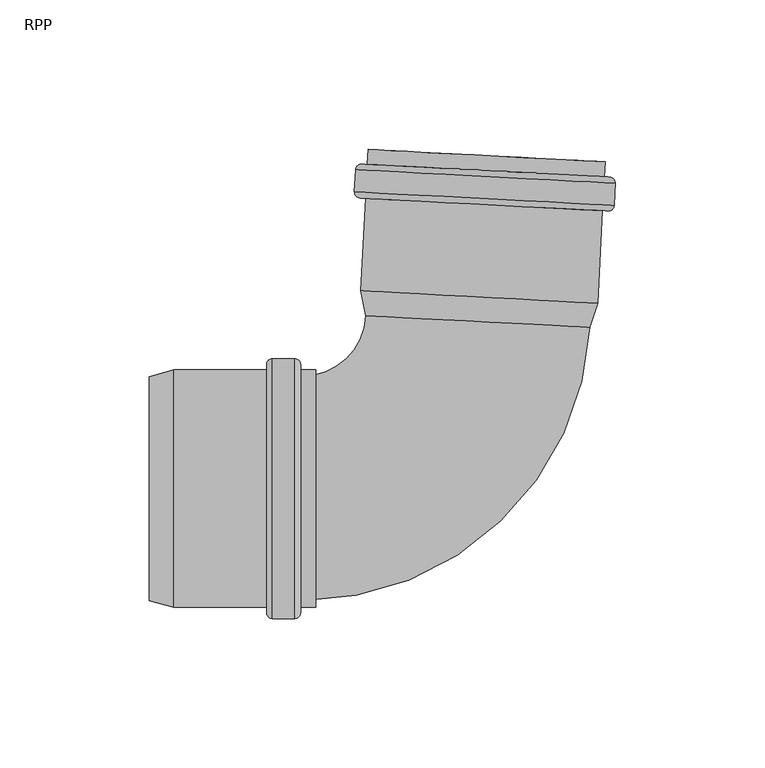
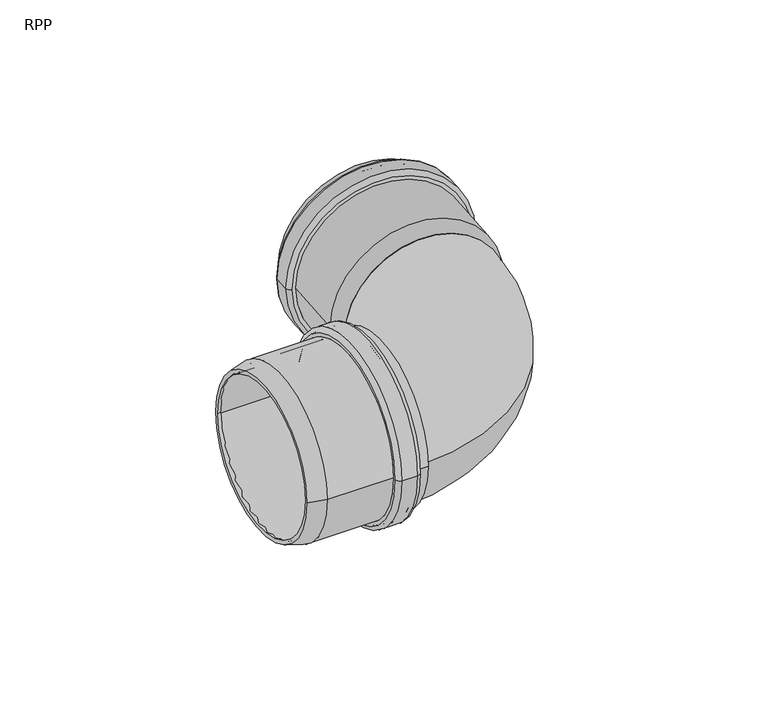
"""IFC4 building model written with IfcOpenShell, lengths in millimetres: pipe fitting geometry, RAUPIANO PLUS Bend : RPP."""

from ifc_helpers import new_model, si_unit, point, frame, origin, place, context, project, spatial, polyline, circle_curve, ellipse_curve, trimmed, source, transform, mapped, element, save
from ifc_brep_helpers import plane_surface, cylinder_surface, revolved_surface, advanced_brep


def rpp_dd01ceee(model_context):
    return source(origin(), model_context, "Body", "AdvancedBrep", [
        advanced_brep(
        [(-65.9, -37.8, 0.0), (-65.9, 37.8, 0.0), (-98.5393485, 37.8, 0.0), (-98.5393485, -37.8, 0.0), (-65.4, -41.6, 0.0), (-65.4, 41.6, 0.0), (-65.9, 41.1, 0.0), (-65.9, -41.1, 0.0), (-58.8, -41.6, 0.0), (-58.8, 41.6, 0.0), (-58.3, -41.1, 0.0), (-58.3, 41.1, 0.0), (-51.4, -37.8, 0.0), (-51.4, 37.8, 0.0), (-58.3, 37.8, 0.0), (-58.3, -37.8, 0.0), (-56.4, -39.7, 0.0), (-56.4, 39.7, 0.0), (-51.4, 39.7, 0.0), (-51.4, -39.7, 0.0), (-58.4, -43.5, 0.0), (-58.4, 43.5, 0.0), (-56.4, 41.5, 0.0), (-56.4, -41.5, 0.0), (-65.8, -43.5, 0.0), (-65.8, 43.5, 0.0), (-67.8, -41.5, 0.0), (-67.8, 41.5, 0.0), (-98.7894882, -39.7, 0.0), (-98.7894882, 39.7, 0.0), (-67.8, 39.7, 0.0), (-67.8, -39.7, 0.0), (-107.0, -37.5, 0.0), (-107.0, 37.5, 0.0), (-107.0, 35.5329753, 0.0), (-107.0, -35.5329753, 0.0)],
        [
            (0, 1, circle_curve(frame((-65.9, 0.0, 0.0), z_axis=(1.0, 0.0, 0.0), x_axis=(0.0, 1.0, 0.0)), 37.8)),
            (1, 2),
            (2, 3, circle_curve(frame((-98.5393485, 0.0, 0.0), z_axis=(-1.0, 0.0, 0.0), x_axis=(0.0, 1.0, 0.0)), 37.8)),
            (3, 0),
            (4, 5, circle_curve(frame((-65.4, 0.0, 0.0), z_axis=(1.0, 0.0, 0.0), x_axis=(0.0, 1.0, 0.0)), 41.6)),
            (5, 6, circle_curve(frame((-65.4, 41.1, 0.0), z_axis=(0.0, 0.0, 1.0), x_axis=(0.0, -1.0, 0.0)), 0.5)),
            (6, 7, circle_curve(frame((-65.9, 0.0, 0.0), z_axis=(-1.0, 0.0, 0.0), x_axis=(0.0, 1.0, 0.0)), 41.1)),
            (7, 4, circle_curve(frame((-65.4, -41.1, 0.0), z_axis=(0.0, 0.0, 1.0), x_axis=(0.0, 1.0, 0.0)), 0.5)),
            (8, 9, circle_curve(frame((-58.8, 0.0, 0.0), z_axis=(1.0, 0.0, 0.0), x_axis=(0.0, 1.0, 0.0)), 41.6)),
            (9, 5),
            (4, 8),
            (10, 11, circle_curve(frame((-58.3, 0.0, 0.0), z_axis=(1.0, 0.0, 0.0), x_axis=(0.0, 1.0, 0.0)), 41.1)),
            (11, 9, circle_curve(frame((-58.8, 41.1, 0.0), z_axis=(0.0, 0.0, 1.0), x_axis=(0.0, -1.0, 0.0)), 0.5)),
            (8, 10, circle_curve(frame((-58.8, -41.1, 0.0), z_axis=(0.0, 0.0, 1.0), x_axis=(0.0, 1.0, 0.0)), 0.5)),
            (12, 13, circle_curve(frame((-51.4, 0.0, 0.0), z_axis=(1.0, 0.0, 0.0), x_axis=(0.0, 1.0, 0.0)), 37.8)),
            (13, 14),
            (14, 15, circle_curve(frame((-58.3, 0.0, 0.0), z_axis=(-1.0, 0.0, 0.0), x_axis=(0.0, 1.0, 0.0)), 37.8)),
            (15, 12),
            (16, 17, circle_curve(frame((-56.4, 0.0, 0.0), z_axis=(1.0, 0.0, 0.0), x_axis=(0.0, 1.0, 0.0)), 39.7)),
            (17, 18),
            (18, 19, circle_curve(frame((-51.4, 0.0, 0.0), z_axis=(-1.0, 0.0, 0.0), x_axis=(0.0, 1.0, 0.0)), 39.7)),
            (19, 16),
            (20, 21, circle_curve(frame((-58.4, 0.0, 0.0), z_axis=(1.0, 0.0, 0.0), x_axis=(0.0, 1.0, 0.0)), 43.5)),
            (21, 22, circle_curve(frame((-58.4, 41.5, 0.0), z_axis=(0.0, 0.0, -1.0), x_axis=(0.0, -1.0, 0.0)), 2.0)),
            (22, 23, circle_curve(frame((-56.4, 0.0, 0.0), z_axis=(-1.0, 0.0, 0.0), x_axis=(0.0, 1.0, 0.0)), 41.5)),
            (23, 20, circle_curve(frame((-58.4, -41.5, 0.0), z_axis=(0.0, 0.0, -1.0), x_axis=(0.0, 1.0, 0.0)), 2.0)),
            (24, 25, circle_curve(frame((-65.8, 0.0, 0.0), z_axis=(1.0, 0.0, 0.0), x_axis=(0.0, 1.0, 0.0)), 43.5)),
            (25, 21),
            (20, 24),
            (26, 27, circle_curve(frame((-67.8, 0.0, 0.0), z_axis=(1.0, 0.0, 0.0), x_axis=(0.0, 1.0, 0.0)), 41.5)),
            (27, 25, circle_curve(frame((-65.8, 41.5, 0.0), z_axis=(0.0, 0.0, -1.0), x_axis=(0.0, -1.0, 0.0)), 2.0)),
            (24, 26, circle_curve(frame((-65.8, -41.5, 0.0), z_axis=(0.0, 0.0, -1.0), x_axis=(0.0, 1.0, 0.0)), 2.0)),
            (28, 29, circle_curve(frame((-98.7894882, 0.0, 0.0), z_axis=(1.0, 0.0, 0.0), x_axis=(0.0, 1.0, 0.0)), 39.7)),
            (29, 30),
            (30, 31, circle_curve(frame((-67.8, 0.0, 0.0), z_axis=(-1.0, 0.0, 0.0), x_axis=(0.0, 1.0, 0.0)), 39.7)),
            (31, 28),
            (32, 33, circle_curve(frame((-107.0, 0.0, 0.0), z_axis=(1.0, 0.0, 0.0), x_axis=(0.0, 1.0, 0.0)), 37.5)),
            (33, 29),
            (28, 32),
            (2, 34),
            (34, 35, circle_curve(frame((-107.0, 0.0, 0.0), z_axis=(-1.0, 0.0, 0.0), x_axis=(0.0, 1.0, 0.0)), 35.5329753)),
            (35, 3),
            (1, 0, circle_curve(frame((-65.9, 0.0, 0.0), z_axis=(1.0, 0.0, 0.0), x_axis=(0.0, -1.0, 0.0)), 37.8)),
            (3, 2, circle_curve(frame((-98.5393485, 0.0, 0.0), z_axis=(-1.0, 0.0, 0.0), x_axis=(0.0, -1.0, 0.0)), 37.8)),
            (6, 7, circle_curve(frame((-65.9, 0.0, 0.0), z_axis=(1.0, 0.0, 0.0), x_axis=(0.0, -1.0, 0.0)), 41.1)),
            (5, 4, circle_curve(frame((-65.4, 0.0, 0.0), z_axis=(1.0, 0.0, 0.0), x_axis=(0.0, -1.0, 0.0)), 41.6)),
            (9, 8, circle_curve(frame((-58.8, 0.0, 0.0), z_axis=(1.0, 0.0, 0.0), x_axis=(0.0, -1.0, 0.0)), 41.6)),
            (11, 10, circle_curve(frame((-58.3, 0.0, 0.0), z_axis=(1.0, 0.0, 0.0), x_axis=(0.0, -1.0, 0.0)), 41.1)),
            (14, 15, circle_curve(frame((-58.3, 0.0, 0.0), z_axis=(1.0, 0.0, 0.0), x_axis=(0.0, -1.0, 0.0)), 37.8)),
            (13, 12, circle_curve(frame((-51.4, 0.0, 0.0), z_axis=(1.0, 0.0, 0.0), x_axis=(0.0, -1.0, 0.0)), 37.8)),
            (18, 19, circle_curve(frame((-51.4, 0.0, 0.0), z_axis=(1.0, 0.0, 0.0), x_axis=(0.0, -1.0, 0.0)), 39.7)),
            (17, 16, circle_curve(frame((-56.4, 0.0, 0.0), z_axis=(1.0, 0.0, 0.0), x_axis=(0.0, -1.0, 0.0)), 39.7)),
            (22, 23, circle_curve(frame((-56.4, 0.0, 0.0), z_axis=(1.0, 0.0, 0.0), x_axis=(0.0, -1.0, 0.0)), 41.5)),
            (21, 20, circle_curve(frame((-58.4, 0.0, 0.0), z_axis=(1.0, 0.0, 0.0), x_axis=(0.0, -1.0, 0.0)), 43.5)),
            (25, 24, circle_curve(frame((-65.8, 0.0, 0.0), z_axis=(1.0, 0.0, 0.0), x_axis=(0.0, -1.0, 0.0)), 43.5)),
            (27, 26, circle_curve(frame((-67.8, 0.0, 0.0), z_axis=(1.0, 0.0, 0.0), x_axis=(0.0, -1.0, 0.0)), 41.5)),
            (30, 31, circle_curve(frame((-67.8, 0.0, 0.0), z_axis=(1.0, 0.0, 0.0), x_axis=(0.0, -1.0, 0.0)), 39.7)),
            (29, 28, circle_curve(frame((-98.7894882, 0.0, 0.0), z_axis=(1.0, 0.0, 0.0), x_axis=(0.0, -1.0, 0.0)), 39.7)),
            (33, 32, circle_curve(frame((-107.0, 0.0, 0.0), z_axis=(1.0, 0.0, 0.0), x_axis=(0.0, -1.0, 0.0)), 37.5)),
            (34, 35, circle_curve(frame((-107.0, 0.0, 0.0), z_axis=(1.0, 0.0, 0.0), x_axis=(0.0, -1.0, 0.0)), 35.5329753)),
        ],
        [
            revolved_surface(polyline([(-98.5393485, 37.8, 0.0), (-65.9, 37.8, 0.0)]), (-107.0, 0.0, 0.0), (-1.0, 0.0, 0.0)),
            revolved_surface(trimmed(ellipse_curve(frame((-65.4, 41.1, 0.0), z_axis=(0.0, 0.0, -1.0), x_axis=(0.0, -1.0, 0.0)), 0.5, 0.5), [point((-65.9, 41.1, 0.0))], [point((-65.4, 41.6, 0.0))], True, "CARTESIAN"), (-107.0, 0.0, 0.0), (-1.0, 0.0, 0.0)),
            revolved_surface(polyline([(-65.4, 41.6, 0.0), (-58.8, 41.6, 0.0)]), (-107.0, 0.0, 0.0), (-1.0, 0.0, 0.0)),
            revolved_surface(trimmed(ellipse_curve(frame((-58.8, 41.1, 0.0), z_axis=(0.0, 0.0, -1.0), x_axis=(0.0, -1.0, 0.0)), 0.5, 0.5), [point((-58.8, 41.6, 0.0))], [point((-58.3, 41.1, 0.0))], True, "CARTESIAN"), (-107.0, 0.0, 0.0), (-1.0, 0.0, 0.0)),
            revolved_surface(polyline([(-58.3, 37.8, 0.0), (-51.4, 37.8, 0.0)]), (-107.0, 0.0, 0.0), (-1.0, 0.0, 0.0)),
            cylinder_surface(frame((-107.0, 0.0, 0.0), z_axis=(-1.0, 0.0, 0.0), x_axis=(0.0, 1.0, 0.0)), 39.7),
            revolved_surface(trimmed(ellipse_curve(frame((-58.4, 41.5, 0.0), z_axis=(0.0, 0.0, 1.0), x_axis=(0.0, -1.0, 0.0)), 2.0, 2.0), [point((-56.4, 41.5, 0.0))], [point((-58.4, 43.5, 0.0))], True, "CARTESIAN"), (-107.0, 0.0, 0.0), (-1.0, 0.0, 0.0)),
            cylinder_surface(frame((-107.0, 0.0, 0.0), z_axis=(-1.0, 0.0, 0.0), x_axis=(0.0, 1.0, 0.0)), 43.5),
            revolved_surface(trimmed(ellipse_curve(frame((-65.8, 41.5, 0.0), z_axis=(0.0, 0.0, 1.0), x_axis=(0.0, -1.0, 0.0)), 2.0, 2.0), [point((-65.8, 43.5, 0.0))], [point((-67.8, 41.5, 0.0))], True, "CARTESIAN"), (-107.0, 0.0, 0.0), (-1.0, 0.0, 0.0)),
            revolved_surface(polyline([(-98.7894882, 39.7, 0.0), (-107.0, 37.5, 0.0)]), (-107.0, 0.0, 0.0), (-1.0, 0.0, 0.0)),
            revolved_surface(polyline([(-107.0, 35.5329753, 0.0), (-98.5393485, 37.8, 0.0)]), (-107.0, 0.0, 0.0), (-1.0, 0.0, 0.0)),
            revolved_surface(polyline([(-98.5393485, -37.8, 0.0), (-65.9, -37.8, 0.0)]), (-107.0, 0.0, 0.0), (-1.0, 0.0, 0.0)),
            plane_surface(frame((-65.9, 0.0, 0.0), z_axis=(1.0, 0.0, 0.0), x_axis=(0.0, -1.0, 0.0))),
            revolved_surface(trimmed(ellipse_curve(frame((-65.4, -41.1, 0.0), z_axis=(0.0, 0.0, 1.0), x_axis=(0.0, 1.0, 0.0)), 0.5, 0.5), [point((-65.9, -41.1, 0.0))], [point((-65.4, -41.6, 0.0))], True, "CARTESIAN"), (-107.0, 0.0, 0.0), (-1.0, 0.0, 0.0)),
            revolved_surface(polyline([(-65.4, -41.6, 0.0), (-58.8, -41.6, 0.0)]), (-107.0, 0.0, 0.0), (-1.0, 0.0, 0.0)),
            revolved_surface(trimmed(ellipse_curve(frame((-58.8, -41.1, 0.0), z_axis=(0.0, 0.0, 1.0), x_axis=(0.0, 1.0, 0.0)), 0.5, 0.5), [point((-58.8, -41.6, 0.0))], [point((-58.3, -41.1, 0.0))], True, "CARTESIAN"), (-107.0, 0.0, 0.0), (-1.0, 0.0, 0.0)),
            plane_surface(frame((-58.3, 0.0, 0.0), z_axis=(-1.0, 0.0, 0.0), x_axis=(0.0, -1.0, 0.0))),
            revolved_surface(polyline([(-58.3, -37.8, 0.0), (-51.4, -37.8, 0.0)]), (-107.0, 0.0, 0.0), (-1.0, 0.0, 0.0)),
            plane_surface(frame((-51.4, 0.0, 0.0), z_axis=(1.0, 0.0, 0.0), x_axis=(0.0, -1.0, 0.0))),
            cylinder_surface(frame((-107.0, 0.0, 0.0), z_axis=(-1.0, 0.0, 0.0), x_axis=(0.0, -1.0, 0.0)), 39.7),
            plane_surface(frame((-56.4, 0.0, 0.0), z_axis=(1.0, 0.0, 0.0), x_axis=(0.0, -1.0, 0.0))),
            revolved_surface(trimmed(ellipse_curve(frame((-58.4, -41.5, 0.0), z_axis=(0.0, 0.0, -1.0), x_axis=(0.0, 1.0, 0.0)), 2.0, 2.0), [point((-56.4, -41.5, 0.0))], [point((-58.4, -43.5, 0.0))], True, "CARTESIAN"), (-107.0, 0.0, 0.0), (-1.0, 0.0, 0.0)),
            cylinder_surface(frame((-107.0, 0.0, 0.0), z_axis=(-1.0, 0.0, 0.0), x_axis=(0.0, -1.0, 0.0)), 43.5),
            revolved_surface(trimmed(ellipse_curve(frame((-65.8, -41.5, 0.0), z_axis=(0.0, 0.0, -1.0), x_axis=(0.0, 1.0, 0.0)), 2.0, 2.0), [point((-65.8, -43.5, 0.0))], [point((-67.8, -41.5, 0.0))], True, "CARTESIAN"), (-107.0, 0.0, 0.0), (-1.0, 0.0, 0.0)),
            plane_surface(frame((-67.8, 0.0, 0.0), z_axis=(-1.0, 0.0, 0.0), x_axis=(0.0, -1.0, 0.0))),
            revolved_surface(polyline([(-98.7894882, -39.7, 0.0), (-107.0, -37.5, 0.0)]), (-107.0, 0.0, 0.0), (-1.0, 0.0, 0.0)),
            plane_surface(frame((-107.0, 0.0, 0.0), z_axis=(-1.0, 0.0, 0.0), x_axis=(0.0, -1.0, 0.0))),
            revolved_surface(polyline([(-107.0, -35.5329753, 0.0), (-98.5393485, -37.8, 0.0)]), (-107.0, 0.0, 0.0), (-1.0, 0.0, 0.0)),
        ],
        [
            (0, [[1, 2, 3, 4]]),
            (1, [[5, 6, 7, 8]]),
            (2, [[9, 10, -5, 11]]),
            (3, [[12, 13, -9, 14]]),
            (4, [[15, 16, 17, 18]]),
            (5, [[19, 20, 21, 22]]),
            (6, [[23, 24, 25, 26]]),
            (7, [[27, 28, -23, 29]]),
            (8, [[30, 31, -27, 32]]),
            (5, [[33, 34, 35, 36]]),
            (9, [[37, 38, -33, 39]]),
            (10, [[-3, 40, 41, 42]]),
            (11, [[43, -4, 44, -2]]),
            (12, [[45, -7], [-43, -1]]),
            (13, [[46, -8, -45, -6]]),
            (14, [[47, -11, -46, -10]]),
            (15, [[48, -14, -47, -13]]),
            (16, [[-48, -12], [49, -17]]),
            (17, [[50, -18, -49, -16]]),
            (18, [[51, -21], [-50, -15]]),
            (19, [[52, -22, -51, -20]]),
            (20, [[53, -25], [-52, -19]]),
            (21, [[54, -26, -53, -24]]),
            (22, [[55, -29, -54, -28]]),
            (23, [[56, -32, -55, -31]]),
            (24, [[-56, -30], [57, -35]]),
            (19, [[58, -36, -57, -34]]),
            (25, [[59, -39, -58, -38]]),
            (26, [[-59, -37], [60, -41]]),
            (27, [[-44, -42, -60, -40]]),
        ],
    ),
        advanced_brep(
        [(38.4150921, 54.0636017, 0.0), (-32.553465, 57.7829062, 0.0), (-34.3745866, 66.3506096, 0.0), (41.1218063, 62.3940113, 0.0), (43.0061111, 62.044776, 0.0), (-36.285074, 66.200251, 0.0), (-34.517794, 57.8858523, 0.0), (40.3794211, 53.9606556, 0.0), (44.6279756, 92.9917942, 0.0), (-34.6632095, 97.1472692, 0.0), (48.9147258, 102.1800352, 0.0), (-37.9660437, 106.7332634, 0.0), (-38.3533298, 99.3434049, 0.0), (48.5274397, 94.7901767, 0.0), (45.4862852, 109.3693186, 0.0), (-33.8048998, 113.5247935, 0.0), (-34.0665796, 108.5316459, 0.0), (45.2246055, 104.3761709, 0.0), (43.227771, 102.5782131, 0.0), (-32.2686218, 106.5348114, 0.0), (-31.9075037, 113.4253552, 0.0), (43.5888891, 109.4687569, 0.0), (46.650978, 95.2890668, 0.0), (-36.4349993, 99.6434184, 0.0), (-36.089582, 106.2343733, 0.0), (46.9963953, 101.8800217, 0.0), (-32.6663751, 98.945227, 0.0), (42.8300178, 94.9886287, 0.0), (-36.4607427, 97.2414739, 0.0), (46.4255087, 92.8975895, 0.0), (47.0221386, 104.2819662, 0.0), (-35.8641128, 108.6258506, 0.0), (-35.5640993, 106.7075201, 0.0), (46.5232485, 102.4055045, 0.0), (46.1254952, 94.81592, 0.0), (-35.9618525, 99.1179356, 0.0)],
        [
            (0, 1, circle_curve(frame((2.9308135, 55.9232539, 0.0), z_axis=(-0.05233595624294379, -0.9986295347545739, 0.0), x_axis=(-0.9986295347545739, 0.05233595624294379, 0.0)), 35.5329753)),
            (1, 2),
            (2, 3, circle_curve(frame((3.3736098, 64.3723104, 0.0), z_axis=(0.05233595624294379, 0.9986295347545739, 0.0), x_axis=(-0.9986295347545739, 0.05233595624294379, 0.0)), 37.8)),
            (3, 0),
            (4, 5, circle_curve(frame((3.3605185, 64.1225135, 0.0), z_axis=(-0.05233595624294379, -0.9986295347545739, 0.0), x_axis=(-0.9986295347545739, 0.05233595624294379, 0.0)), 39.7)),
            (5, 6),
            (6, 7, circle_curve(frame((2.9308135, 55.9232539, 0.0), z_axis=(0.05233595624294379, 0.9986295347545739, 0.0), x_axis=(-0.9986295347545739, 0.05233595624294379, 0.0)), 37.5)),
            (7, 4),
            (8, 9, circle_curve(frame((4.982383, 95.0695317, 0.0), z_axis=(-0.05233595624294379, -0.9986295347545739, 0.0), x_axis=(-0.9986295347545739, 0.05233595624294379, 0.0)), 39.7)),
            (9, 5),
            (4, 8),
            (10, 11, circle_curve(frame((5.474341, 104.4566493, 0.0), z_axis=(-0.05233595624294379, -0.9986295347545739, 0.0), x_axis=(-0.9986295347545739, 0.05233595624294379, 0.0)), 43.5)),
            (11, 12),
            (12, 13, circle_curve(frame((5.0870549, 97.0667908, 0.0), z_axis=(0.05233595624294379, 0.9986295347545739, 0.0), x_axis=(-0.9986295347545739, 0.05233595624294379, 0.0)), 43.5)),
            (13, 10),
            (14, 15, circle_curve(frame((5.8406927, 111.4470561, 0.0), z_axis=(-0.05233595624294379, -0.9986295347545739, 0.0), x_axis=(-0.9986295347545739, 0.05233595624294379, 0.0)), 39.7)),
            (15, 16),
            (16, 17, circle_curve(frame((5.5790129, 106.4539084, 0.0), z_axis=(0.05233595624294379, 0.9986295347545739, 0.0), x_axis=(-0.9986295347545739, 0.05233595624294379, 0.0)), 39.7)),
            (17, 14),
            (18, 19, circle_curve(frame((5.4795746, 104.5565123, 0.0), z_axis=(-0.05233595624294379, -0.9986295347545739, 0.0), x_axis=(-0.9986295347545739, 0.05233595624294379, 0.0)), 37.8)),
            (19, 20),
            (20, 21, circle_curve(frame((5.8406927, 111.4470561, 0.0), z_axis=(0.05233595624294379, 0.9986295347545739, 0.0), x_axis=(-0.9986295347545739, 0.05233595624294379, 0.0)), 37.8)),
            (21, 18),
            (22, 23, circle_curve(frame((5.1079893, 97.4662426, 0.0), z_axis=(-0.05233595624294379, -0.9986295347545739, 0.0), x_axis=(-0.9986295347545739, 0.05233595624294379, 0.0)), 41.6)),
            (23, 24),
            (24, 25, circle_curve(frame((5.4534066, 104.0571975, 0.0), z_axis=(0.05233595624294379, 0.9986295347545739, 0.0), x_axis=(-0.9986295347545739, 0.05233595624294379, 0.0)), 41.6)),
            (25, 22),
            (2, 26),
            (26, 27, circle_curve(frame((5.0818214, 96.9669278, 0.0), z_axis=(0.05233595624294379, 0.9986295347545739, 0.0), x_axis=(-0.9986295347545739, 0.05233595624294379, 0.0)), 37.8)),
            (27, 3),
            (1, 0, circle_curve(frame((2.9308135, 55.9232539, 0.0), z_axis=(-0.05233595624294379, -0.9986295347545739, 0.0), x_axis=(0.9986295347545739, -0.05233595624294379, 0.0)), 35.5329753)),
            (3, 2, circle_curve(frame((3.3736098, 64.3723104, 0.0), z_axis=(0.05233595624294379, 0.9986295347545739, 0.0), x_axis=(0.9986295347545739, -0.05233595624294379, 0.0)), 37.8)),
            (6, 7, circle_curve(frame((2.9308135, 55.9232539, 0.0), z_axis=(-0.05233595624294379, -0.9986295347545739, 0.0), x_axis=(0.9986295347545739, -0.05233595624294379, 0.0)), 37.5)),
            (5, 4, circle_curve(frame((3.3605185, 64.1225135, 0.0), z_axis=(-0.05233595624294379, -0.9986295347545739, 0.0), x_axis=(0.9986295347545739, -0.05233595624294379, 0.0)), 39.7)),
            (9, 8, circle_curve(frame((4.982383, 95.0695317, 0.0), z_axis=(-0.05233595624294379, -0.9986295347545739, 0.0), x_axis=(0.9986295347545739, -0.05233595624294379, 0.0)), 39.7)),
            (28, 29, circle_curve(frame((4.982383, 95.0695317, 0.0), z_axis=(-0.05233595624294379, -0.9986295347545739, 0.0), x_axis=(0.9986295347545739, -0.05233595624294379, 0.0)), 41.5)),
            (29, 28, circle_curve(frame((4.982383, 95.0695317, 0.0), z_axis=(-0.05233595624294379, -0.9986295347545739, 0.0), x_axis=(-0.9986295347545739, 0.05233595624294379, 0.0)), 41.5)),
            (11, 10, circle_curve(frame((5.474341, 104.4566493, 0.0), z_axis=(-0.05233595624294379, -0.9986295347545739, 0.0), x_axis=(0.9986295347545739, -0.05233595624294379, 0.0)), 43.5)),
            (13, 12, circle_curve(frame((5.0870549, 97.0667908, 0.0), z_axis=(0.05233595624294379, 0.9986295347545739, 0.0), x_axis=(0.9986295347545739, -0.05233595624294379, 0.0)), 43.5)),
            (30, 31, circle_curve(frame((5.5790129, 106.4539084, 0.0), z_axis=(0.05233595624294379, 0.9986295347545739, 0.0), x_axis=(0.9986295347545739, -0.05233595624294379, 0.0)), 41.5)),
            (31, 30, circle_curve(frame((5.5790129, 106.4539084, 0.0), z_axis=(0.05233595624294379, 0.9986295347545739, 0.0), x_axis=(-0.9986295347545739, 0.05233595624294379, 0.0)), 41.5)),
            (16, 17, circle_curve(frame((5.5790129, 106.4539084, 0.0), z_axis=(-0.05233595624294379, -0.9986295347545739, 0.0), x_axis=(0.9986295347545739, -0.05233595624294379, 0.0)), 39.7)),
            (15, 14, circle_curve(frame((5.8406927, 111.4470561, 0.0), z_axis=(-0.05233595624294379, -0.9986295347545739, 0.0), x_axis=(0.9986295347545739, -0.05233595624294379, 0.0)), 39.7)),
            (20, 21, circle_curve(frame((5.8406927, 111.4470561, 0.0), z_axis=(-0.05233595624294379, -0.9986295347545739, 0.0), x_axis=(0.9986295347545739, -0.05233595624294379, 0.0)), 37.8)),
            (19, 18, circle_curve(frame((5.4795746, 104.5565123, 0.0), z_axis=(-0.05233595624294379, -0.9986295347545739, 0.0), x_axis=(0.9986295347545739, -0.05233595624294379, 0.0)), 37.8)),
            (32, 33, circle_curve(frame((5.4795746, 104.5565123, 0.0), z_axis=(-0.05233595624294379, -0.9986295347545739, 0.0), x_axis=(0.9986295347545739, -0.05233595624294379, 0.0)), 41.1)),
            (33, 32, circle_curve(frame((5.4795746, 104.5565123, 0.0), z_axis=(-0.05233595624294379, -0.9986295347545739, 0.0), x_axis=(-0.9986295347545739, 0.05233595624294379, 0.0)), 41.1)),
            (23, 22, circle_curve(frame((5.1079893, 97.4662426, 0.0), z_axis=(-0.05233595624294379, -0.9986295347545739, 0.0), x_axis=(0.9986295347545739, -0.05233595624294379, 0.0)), 41.6)),
            (25, 24, circle_curve(frame((5.4534066, 104.0571975, 0.0), z_axis=(0.05233595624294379, 0.9986295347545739, 0.0), x_axis=(0.9986295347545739, -0.05233595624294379, 0.0)), 41.6)),
            (34, 35, circle_curve(frame((5.0818214, 96.9669278, 0.0), z_axis=(0.05233595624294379, 0.9986295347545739, 0.0), x_axis=(0.9986295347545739, -0.05233595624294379, 0.0)), 41.1)),
            (35, 34, circle_curve(frame((5.0818214, 96.9669278, 0.0), z_axis=(0.05233595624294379, 0.9986295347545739, 0.0), x_axis=(-0.9986295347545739, 0.05233595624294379, 0.0)), 41.1)),
            (26, 27, circle_curve(frame((5.0818214, 96.9669278, 0.0), z_axis=(-0.05233595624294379, -0.9986295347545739, 0.0), x_axis=(0.9986295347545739, -0.05233595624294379, 0.0)), 37.8)),
            (12, 28, circle_curve(frame((-36.3560707, 99.238733, 0.0), z_axis=(0.0, 0.0, 1.0), x_axis=(0.9986295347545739, -0.05233595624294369, 0.0)), 2.0)),
            (29, 13, circle_curve(frame((46.5301806, 94.8948486, 0.0), z_axis=(0.0, 0.0, 1.0), x_axis=(-0.9986295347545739, 0.0523359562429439, 0.0)), 2.0)),
            (31, 11, circle_curve(frame((-35.9687847, 106.6285915, 0.0), z_axis=(0.0, 0.0, 1.0), x_axis=(0.9986295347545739, -0.05233595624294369, 0.0)), 2.0)),
            (10, 30, circle_curve(frame((46.9174667, 102.2847072, 0.0), z_axis=(0.0, 0.0, 1.0), x_axis=(-0.9986295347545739, 0.0523359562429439, 0.0)), 2.0)),
            (24, 32, circle_curve(frame((-35.5902672, 106.2082053, 0.0), z_axis=(0.0, 0.0, -1.0), x_axis=(0.9986295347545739, -0.05233595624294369, 0.0)), 0.5)),
            (33, 25, circle_curve(frame((46.4970805, 101.9061897, 0.0), z_axis=(0.0, 0.0, -1.0), x_axis=(-0.9986295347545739, 0.0523359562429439, 0.0)), 0.5)),
            (35, 23, circle_curve(frame((-35.9356845, 99.6172504, 0.0), z_axis=(0.0, 0.0, -1.0), x_axis=(0.9986295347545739, -0.05233595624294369, 0.0)), 0.5)),
            (22, 34, circle_curve(frame((46.1516632, 95.3152348, 0.0), z_axis=(0.0, 0.0, -1.0), x_axis=(-0.9986295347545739, 0.0523359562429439, 0.0)), 0.5)),
        ],
        [
            revolved_surface(polyline([(-34.3745866, 66.3506096, 0.0), (-32.553465, 57.7829062, 0.0)]), (2.9308135, 55.9232539, 0.0), (0.05233595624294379, 0.9986295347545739, 0.0)),
            revolved_surface(polyline([(-34.517794, 57.8858523, 0.0), (-36.285074, 66.200251, 0.0)]), (2.9308135, 55.9232539, 0.0), (0.05233595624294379, 0.9986295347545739, 0.0)),
            cylinder_surface(frame((2.9308135, 55.9232539, 0.0), z_axis=(0.05233595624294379, 0.9986295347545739, 0.0), x_axis=(-0.9986295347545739, 0.05233595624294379, 0.0)), 39.7),
            cylinder_surface(frame((2.9308135, 55.9232539, 0.0), z_axis=(0.05233595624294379, 0.9986295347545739, 0.0), x_axis=(-0.9986295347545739, 0.05233595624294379, 0.0)), 43.5),
            revolved_surface(polyline([(-31.907503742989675, 113.4253552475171, 0.0), (-32.26862184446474, 106.53481139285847, 0.0)]), (2.9308135, 55.9232539, 0.0), (0.05233595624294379, 0.9986295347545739, 0.0)),
            revolved_surface(polyline([(-36.08958205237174, 106.2343733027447, 0.0), (-36.43499936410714, 99.64341836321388, 0.0)]), (2.9308135, 55.9232539, 0.0), (0.05233595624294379, 0.9986295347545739, 0.0)),
            revolved_surface(polyline([(-32.66637510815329, 98.94522700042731, 0.0), (-34.37458662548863, 66.3506095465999, 0.0)]), (2.9308135, 55.9232539, 0.0), (0.05233595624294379, 0.9986295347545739, 0.0)),
            revolved_surface(polyline([(41.1218063, 62.3940113, 0.0), (38.4150921, 54.0636017, 0.0)]), (2.9308135, 55.9232539, 0.0), (0.05233595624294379, 0.9986295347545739, 0.0)),
            plane_surface(frame((2.9308135, 55.9232539, 0.0), z_axis=(-0.05233595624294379, -0.9986295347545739, 0.0), x_axis=(0.9986295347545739, -0.05233595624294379, 0.0))),
            revolved_surface(polyline([(40.3794211, 53.9606556, 0.0), (43.0061111, 62.044776, 0.0)]), (2.9308135, 55.9232539, 0.0), (0.05233595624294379, 0.9986295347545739, 0.0)),
            cylinder_surface(frame((2.9308135, 55.9232539, 0.0), z_axis=(0.05233595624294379, 0.9986295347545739, 0.0), x_axis=(0.9986295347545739, -0.05233595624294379, 0.0)), 39.7),
            plane_surface(frame((4.982383, 95.0695317, 0.0), z_axis=(-0.05233595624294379, -0.9986295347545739, 0.0), x_axis=(0.9986295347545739, -0.05233595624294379, 0.0))),
            cylinder_surface(frame((2.9308135, 55.9232539, 0.0), z_axis=(0.05233595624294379, 0.9986295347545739, 0.0), x_axis=(0.9986295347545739, -0.05233595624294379, 0.0)), 43.5),
            plane_surface(frame((5.5790129, 106.4539084, 0.0), z_axis=(0.05233595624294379, 0.9986295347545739, 0.0), x_axis=(0.9986295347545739, -0.05233595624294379, 0.0))),
            plane_surface(frame((5.8406927, 111.4470561, 0.0), z_axis=(0.05233595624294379, 0.9986295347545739, 0.0), x_axis=(0.9986295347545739, -0.05233595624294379, 0.0))),
            revolved_surface(polyline([(43.58888908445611, 109.46875695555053, 0.0), (43.22777098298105, 102.57821310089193, 0.0)]), (2.9308135, 55.9232539, 0.0), (0.05233595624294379, 0.9986295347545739, 0.0)),
            plane_surface(frame((5.4795746, 104.5565123, 0.0), z_axis=(-0.05233595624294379, -0.9986295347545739, 0.0), x_axis=(0.9986295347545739, -0.05233595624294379, 0.0))),
            revolved_surface(polyline([(46.99639523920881, 101.88002174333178, 0.0), (46.650977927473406, 95.28906680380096, 0.0)]), (2.9308135, 55.9232539, 0.0), (0.05233595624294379, 0.9986295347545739, 0.0)),
            plane_surface(frame((5.0818214, 96.9669278, 0.0), z_axis=(0.05233595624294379, 0.9986295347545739, 0.0), x_axis=(0.9986295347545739, -0.05233595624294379, 0.0))),
            revolved_surface(polyline([(42.8300177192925, 94.98862870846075, 0.0), (41.121806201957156, 62.39401125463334, 0.0)]), (2.9308135, 55.9232539, 0.0), (0.05233595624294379, 0.9986295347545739, 0.0)),
            revolved_surface(trimmed(ellipse_curve(frame((-36.3560707, 99.238733, 0.0), z_axis=(0.0, 0.0, -1.0), x_axis=(0.9986295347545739, -0.05233595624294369, 0.0)), 2.0, 2.0), [point((-36.4607427, 97.2414739, 0.0))], [point((-38.3533298, 99.3434049, 0.0))], True, "CARTESIAN"), (2.9308135, 55.9232539, 0.0), (0.05233595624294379, 0.9986295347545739, 0.0)),
            revolved_surface(trimmed(ellipse_curve(frame((-35.9687847, 106.6285915, 0.0), z_axis=(0.0, 0.0, -1.0), x_axis=(0.9986295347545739, -0.05233595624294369, 0.0)), 2.0, 2.0), [point((-37.9660437, 106.7332634, 0.0))], [point((-35.8641128, 108.6258506, 0.0))], True, "CARTESIAN"), (2.9308135, 55.9232539, 0.0), (0.05233595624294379, 0.9986295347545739, 0.0)),
            revolved_surface(trimmed(ellipse_curve(frame((-35.5902672, 106.2082053, 0.0), z_axis=(0.0, 0.0, 1.0), x_axis=(0.9986295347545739, -0.05233595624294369, 0.0)), 0.5, 0.5), [point((-35.5640993, 106.7075201, 0.0))], [point((-36.089582, 106.2343733, 0.0))], True, "CARTESIAN"), (2.9308135, 55.9232539, 0.0), (0.05233595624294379, 0.9986295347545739, 0.0)),
            revolved_surface(trimmed(ellipse_curve(frame((-35.9356845, 99.6172504, 0.0), z_axis=(0.0, 0.0, 1.0), x_axis=(0.9986295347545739, -0.05233595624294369, 0.0)), 0.5, 0.5), [point((-36.4349993, 99.6434184, 0.0))], [point((-35.9618525, 99.1179356, 0.0))], True, "CARTESIAN"), (2.9308135, 55.9232539, 0.0), (0.05233595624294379, 0.9986295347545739, 0.0)),
            revolved_surface(trimmed(ellipse_curve(frame((46.5301806, 94.8948486, 0.0), z_axis=(0.0, 0.0, 1.0), x_axis=(-0.9986295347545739, 0.052335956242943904, 0.0)), 2.0, 2.0), [point((46.4255087, 92.8975895, 0.0))], [point((48.5274397, 94.7901767, 0.0))], True, "CARTESIAN"), (2.9308135, 55.9232539, 0.0), (0.05233595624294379, 0.9986295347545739, 0.0)),
            revolved_surface(trimmed(ellipse_curve(frame((46.9174667, 102.2847072, 0.0), z_axis=(0.0, 0.0, 1.0), x_axis=(-0.9986295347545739, 0.052335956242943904, 0.0)), 2.0, 2.0), [point((48.9147258, 102.1800352, 0.0))], [point((47.0221386, 104.2819662, 0.0))], True, "CARTESIAN"), (2.9308135, 55.9232539, 0.0), (0.05233595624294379, 0.9986295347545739, 0.0)),
            revolved_surface(trimmed(ellipse_curve(frame((46.4970805, 101.9061897, 0.0), z_axis=(0.0, 0.0, -1.0), x_axis=(-0.9986295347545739, 0.052335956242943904, 0.0)), 0.5, 0.5), [point((46.5232485, 102.4055045, 0.0))], [point((46.9963953, 101.8800217, 0.0))], True, "CARTESIAN"), (2.9308135, 55.9232539, 0.0), (0.05233595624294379, 0.9986295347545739, 0.0)),
            revolved_surface(trimmed(ellipse_curve(frame((46.1516632, 95.3152348, 0.0), z_axis=(0.0, 0.0, -1.0), x_axis=(-0.9986295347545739, 0.052335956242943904, 0.0)), 0.5, 0.5), [point((46.650978, 95.2890668, 0.0))], [point((46.1254952, 94.81592, 0.0))], True, "CARTESIAN"), (2.9308135, 55.9232539, 0.0), (0.05233595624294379, 0.9986295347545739, 0.0)),
        ],
        [
            (0, [[1, 2, 3, 4]]),
            (1, [[5, 6, 7, 8]]),
            (2, [[9, 10, -5, 11]]),
            (3, [[12, 13, 14, 15]]),
            (2, [[16, 17, 18, 19]]),
            (4, [[20, 21, 22, 23]]),
            (5, [[24, 25, 26, 27]]),
            (6, [[-3, 28, 29, 30]]),
            (7, [[31, -4, 32, -2]]),
            (8, [[33, -7], [-31, -1]]),
            (9, [[34, -8, -33, -6]]),
            (10, [[35, -11, -34, -10]]),
            (11, [[36, 37], [-35, -9]]),
            (12, [[38, -15, 39, -13]]),
            (13, [[40, 41], [42, -18]]),
            (10, [[43, -19, -42, -17]]),
            (14, [[-43, -16], [44, -22]]),
            (15, [[45, -23, -44, -21]]),
            (16, [[46, 47], [-45, -20]]),
            (17, [[48, -27, 49, -25]]),
            (18, [[50, 51], [52, -29]]),
            (19, [[-32, -30, -52, -28]]),
            (20, [[-14, 53, -37, 54]]),
            (21, [[-41, 55, -12, 56]]),
            (22, [[-26, 57, -47, 58]]),
            (23, [[-51, 59, -24, 60]]),
            (24, [[-39, -54, -36, -53]]),
            (25, [[-40, -56, -38, -55]]),
            (26, [[-49, -58, -46, -57]]),
            (27, [[-50, -60, -48, -59]]),
        ],
    ),
        advanced_brep(
        [(-56.0, 35.6, 0.0), (-56.0, -35.6, 0.0), (-107.0, -35.6, 0.0), (-107.0, 35.6, 0.0), (-102.8947441, 37.5, 0.0), (-102.8947441, -37.5, 0.0), (-56.0, -37.5, 0.0), (-56.0, 37.5, 0.0), (-107.0, 36.4, 0.0), (-107.0, -36.4, 0.0)],
        [
            (0, 1, circle_curve(frame((-56.0, 0.0, 0.0), z_axis=(1.0, 0.0, 0.0), x_axis=(0.0, -1.0, 0.0)), 35.6)),
            (1, 2),
            (2, 3, circle_curve(frame((-107.0, 0.0, 0.0), z_axis=(-1.0, 0.0, 0.0), x_axis=(0.0, -1.0, 0.0)), 35.6)),
            (3, 0),
            (4, 5, circle_curve(frame((-102.8947441, 0.0, 0.0), z_axis=(1.0, 0.0, 0.0), x_axis=(0.0, -1.0, 0.0)), 37.5)),
            (5, 6),
            (6, 7, circle_curve(frame((-56.0, 0.0, 0.0), z_axis=(-1.0, 0.0, 0.0), x_axis=(0.0, -1.0, 0.0)), 37.5)),
            (7, 4),
            (8, 9, circle_curve(frame((-107.0, 0.0, 0.0), z_axis=(1.0, 0.0, 0.0), x_axis=(0.0, -1.0, 0.0)), 36.4)),
            (9, 5),
            (4, 8),
            (1, 0, circle_curve(frame((-56.0, 0.0, 0.0), z_axis=(1.0, 0.0, 0.0), x_axis=(0.0, 1.0, 0.0)), 35.6)),
            (3, 2, circle_curve(frame((-107.0, 0.0, 0.0), z_axis=(-1.0, 0.0, 0.0), x_axis=(0.0, 1.0, 0.0)), 35.6)),
            (6, 7, circle_curve(frame((-56.0, 0.0, 0.0), z_axis=(1.0, 0.0, 0.0), x_axis=(0.0, 1.0, 0.0)), 37.5)),
            (5, 4, circle_curve(frame((-102.8947441, 0.0, 0.0), z_axis=(1.0, 0.0, 0.0), x_axis=(0.0, 1.0, 0.0)), 37.5)),
            (9, 8, circle_curve(frame((-107.0, 0.0, 0.0), z_axis=(1.0, 0.0, 0.0), x_axis=(0.0, 1.0, 0.0)), 36.4)),
        ],
        [
            revolved_surface(polyline([(-107.0, -35.6, 0.0), (-56.0, -35.6, 0.0)]), (-56.0, 0.0, 0.0), (-1.0, 0.0, 0.0)),
            cylinder_surface(frame((-56.0, 0.0, 0.0), z_axis=(-1.0, 0.0, 0.0), x_axis=(0.0, -1.0, 0.0)), 37.5),
            revolved_surface(polyline([(-102.8947441, -37.5, 0.0), (-107.0, -36.4, 0.0)]), (-56.0, 0.0, 0.0), (-1.0, 0.0, 0.0)),
            revolved_surface(polyline([(-107.0, 35.6, 0.0), (-56.0, 35.6, 0.0)]), (-56.0, 0.0, 0.0), (-1.0, 0.0, 0.0)),
            plane_surface(frame((-56.0, 0.0, 0.0), z_axis=(1.0, 0.0, 0.0), x_axis=(0.0, 1.0, 0.0))),
            cylinder_surface(frame((-56.0, 0.0, 0.0), z_axis=(-1.0, 0.0, 0.0), x_axis=(0.0, 1.0, 0.0)), 37.5),
            revolved_surface(polyline([(-102.8947441, 37.5, 0.0), (-107.0, 36.4, 0.0)]), (-56.0, 0.0, 0.0), (-1.0, 0.0, 0.0)),
            plane_surface(frame((-107.0, 0.0, 0.0), z_axis=(-1.0, 0.0, 0.0), x_axis=(0.0, 1.0, 0.0))),
        ],
        [
            (0, [[1, 2, 3, 4]]),
            (1, [[5, 6, 7, 8]]),
            (2, [[9, 10, -5, 11]]),
            (3, [[12, -4, 13, -2]]),
            (4, [[14, -7], [-12, -1]]),
            (5, [[15, -8, -14, -6]]),
            (6, [[16, -11, -15, -10]]),
            (7, [[-16, -9], [-13, -3]]),
        ],
    ),
        advanced_brep(
        [(-56.0, -37.5, 0.0), (-56.0, 37.5, 0.0), (-56.0, -35.6, 0.0), (-56.0, 35.6, 0.0), (40.3794211, 53.9606556, 0.0), (-34.517794, 57.8858523, 0.0), (38.482025, 54.0600939, 0.0), (-32.6203979, 57.786414, 0.0)],
        [
            (0, 1, circle_curve(frame((-56.0, 0.0, 0.0), z_axis=(-1.0, 0.0, 0.0), x_axis=(0.0, 1.0, 0.0)), 37.5)),
            (1, 0, circle_curve(frame((-56.0, 0.0, 0.0), z_axis=(-1.0, 0.0, 0.0), x_axis=(0.0, 1.0, 0.0)), 37.5)),
            (2, 3, circle_curve(frame((-56.0, 0.0, 0.0), z_axis=(1.0, 0.0, 0.0), x_axis=(0.0, 1.0, 0.0)), 35.6)),
            (3, 2, circle_curve(frame((-56.0, 0.0, 0.0), z_axis=(1.0, 0.0, 0.0), x_axis=(0.0, 1.0, 0.0)), 35.6)),
            (4, 5, circle_curve(frame((2.9308135, 55.9232539, 0.0), z_axis=(0.05233595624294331, 0.9986295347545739, 0.0), x_axis=(-0.9986295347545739, 0.05233595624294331, 0.0)), 37.5)),
            (5, 4, circle_curve(frame((2.9308135, 55.9232539, 0.0), z_axis=(0.05233595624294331, 0.9986295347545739, 0.0), x_axis=(-0.9986295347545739, 0.05233595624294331, 0.0)), 37.5)),
            (6, 7, circle_curve(frame((2.9308135, 55.9232539, 0.0), z_axis=(-0.05233595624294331, -0.9986295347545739, 0.0), x_axis=(-0.9986295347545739, 0.05233595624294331, 0.0)), 35.6)),
            (7, 6, circle_curve(frame((2.9308135, 55.9232539, 0.0), z_axis=(-0.05233595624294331, -0.9986295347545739, 0.0), x_axis=(-0.9986295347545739, 0.05233595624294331, 0.0)), 35.6)),
            (7, 3, circle_curve(frame((-56.0, 59.011687, 0.0), z_axis=(0.0, 0.0, -1.0), x_axis=(0.0, -1.0, 0.0)), 23.411687)),
            (2, 6, circle_curve(frame((-56.0, 59.011687, 0.0), z_axis=(0.0, 0.0, 1.0), x_axis=(0.0, -1.0, 0.0)), 94.611687)),
            (5, 1, circle_curve(frame((-56.0, 59.011687, 0.0), z_axis=(0.0, 0.0, -1.0), x_axis=(0.0, -1.0, 0.0)), 21.511687)),
            (0, 4, circle_curve(frame((-56.0, 59.011687, 0.0), z_axis=(0.0, 0.0, 1.0), x_axis=(0.0, -1.0, 0.0)), 96.511687)),
        ],
        [
            plane_surface(frame((-56.0, 0.0, 0.0), z_axis=(-1.0, 0.0, 0.0), x_axis=(0.0, 0.0, 1.0))),
            plane_surface(frame((2.9308135, 55.9232539, 0.0), z_axis=(0.05233595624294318, 0.9986295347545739, 0.0), x_axis=(0.0, 0.0, 1.0))),
            revolved_surface(trimmed(ellipse_curve(frame((-56.0, 0.0, 0.0), z_axis=(1.0, 0.0, 0.0), x_axis=(0.0, 1.0, 0.0)), 35.6, 35.6), [point((-56.0, -35.6, 0.0))], [point((-56.0, 35.6, 0.0))], True, "CARTESIAN"), (-56.0, 59.011687, 0.0), (0.0, 0.0, 1.0)),
            revolved_surface(trimmed(ellipse_curve(frame((-56.0, 0.0, 0.0), z_axis=(1.0, 0.0, 0.0), x_axis=(0.0, 1.0, 0.0)), 35.6, 35.6), [point((-56.0, 35.6, 0.0))], [point((-56.0, -35.6, 0.0))], True, "CARTESIAN"), (-56.0, 59.011687, 0.0), (0.0, 0.0, 1.0)),
            revolved_surface(trimmed(ellipse_curve(frame((-56.0, 0.0, 0.0), z_axis=(-1.0, 0.0, 0.0), x_axis=(0.0, 1.0, 0.0)), 37.5, 37.5), [point((-56.0, -37.5, 0.0))], [point((-56.0, 37.5, 0.0))], True, "CARTESIAN"), (-56.0, 59.011687, 0.0), (0.0, 0.0, 1.0)),
            revolved_surface(trimmed(ellipse_curve(frame((-56.0, 0.0, 0.0), z_axis=(-1.0, 0.0, 0.0), x_axis=(0.0, 1.0, 0.0)), 37.5, 37.5), [point((-56.0, 37.5, 0.0))], [point((-56.0, -37.5, 0.0))], True, "CARTESIAN"), (-56.0, 59.011687, 0.0), (0.0, 0.0, 1.0)),
        ],
        [
            (0, [[1, 2], [3, 4]]),
            (1, [[5, 6], [7, 8]]),
            (2, [[9, -3, 10, -8]]),
            (3, [[-10, -4, -9, -7]]),
            (4, [[11, -1, 12, -6]]),
            (5, [[-12, -2, -11, -5]]),
        ],
    ),
    ])


if __name__ == "__main__":
    model = new_model("IFC4")
    model_context = context("Model", 3, world=origin())
    ifc_project = project(units=[si_unit("LENGTHUNIT", "METRE", prefix="MILLI")], contexts=[model_context])
    site = spatial("IfcSite", under=ifc_project)
    building = spatial("IfcBuilding", under=site)
    placement = place(None, origin())
    rpp_shape = rpp_dd01ceee(model_context)
    element("IfcPipeFitting", 1, ObjectType="RAUPIANO PLUS Bend : RPP", at=placement, inside=building, context=model_context, shape_type="MappedRepresentation", body=[
        mapped(rpp_shape, transform((0.0, 0.0, 0.0), x_axis=(1.0, 0.0, 0.0), y_axis=(0.0, 1.0, 0.0), z_axis=(0.0, 0.0, 1.0))),
    ])
    save(model, "model.ifc")
